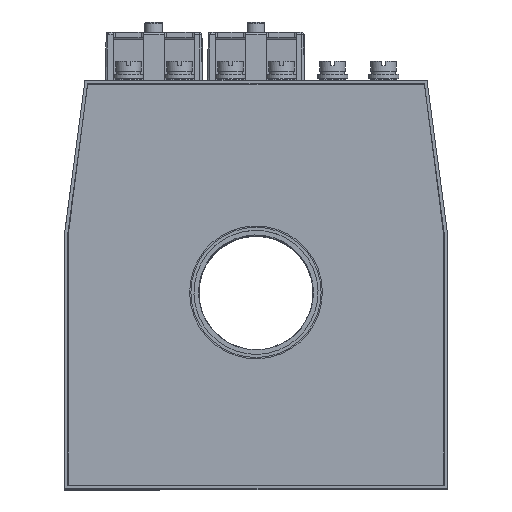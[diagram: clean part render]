
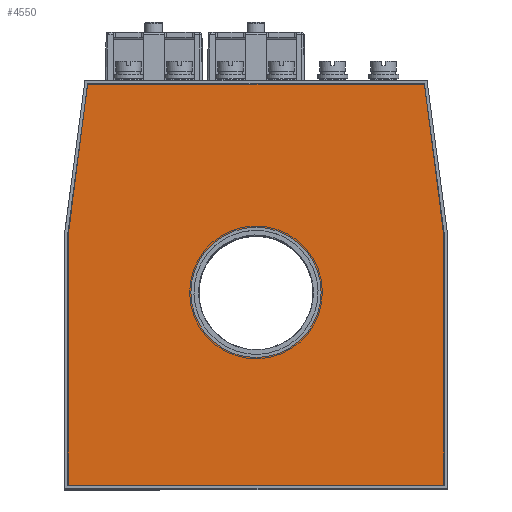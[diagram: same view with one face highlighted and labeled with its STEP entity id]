
A CAD part, top view. The second image highlights one B-rep face of the part: STEP entity #4550.
In plain terms, the highlighted planar face has unit normal (0, 0, 1).
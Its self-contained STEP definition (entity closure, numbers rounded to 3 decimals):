
#4550=ADVANCED_FACE('',(#8031,#8033),#8035,.T.);
#8031=FACE_BOUND('',#8032,.T.);
#8032=EDGE_LOOP('',(#9456,#9457,#9458,#9459,#9460,#9461));
#8033=FACE_BOUND('',#8034,.T.);
#8034=EDGE_LOOP('',(#9462));
#8035=PLANE('',#8036);
#8036=AXIS2_PLACEMENT_3D('',#8037,#8038,#8039);
#8037=CARTESIAN_POINT('',(0.,0.,5.));
#8038=DIRECTION('',(0.,0.,1.));
#8039=DIRECTION('',(1.,0.,0.));
#9456=ORIENTED_EDGE('',*,*,#10175,.T.);
#9457=ORIENTED_EDGE('',*,*,#10176,.T.);
#9458=ORIENTED_EDGE('',*,*,#10177,.T.);
#9459=ORIENTED_EDGE('',*,*,#10178,.T.);
#9460=ORIENTED_EDGE('',*,*,#10179,.T.);
#9461=ORIENTED_EDGE('',*,*,#10180,.T.);
#9462=ORIENTED_EDGE('',*,*,#10181,.T.);
#10175=EDGE_CURVE('',#11360,#11361,#11362,.T.);
#10176=EDGE_CURVE('',#11361,#11363,#11364,.T.);
#10177=EDGE_CURVE('',#11363,#11365,#11366,.T.);
#10178=EDGE_CURVE('',#11365,#11367,#11368,.T.);
#10179=EDGE_CURVE('',#11367,#11369,#11370,.T.);
#10180=EDGE_CURVE('',#11369,#11360,#11371,.T.);
#10181=EDGE_CURVE('',#11372,#11372,#11373,.F.);
#11360=VERTEX_POINT('',#14398);
#11361=VERTEX_POINT('',#14399);
#11362=LINE('',#14400,#14401);
#11363=VERTEX_POINT('',#14403);
#11364=LINE('',#14404,#14405);
#11365=VERTEX_POINT('',#14407);
#11366=LINE('',#14408,#14409);
#11367=VERTEX_POINT('',#14411);
#11368=LINE('',#14412,#14413);
#11369=VERTEX_POINT('',#14415);
#11370=LINE('',#14416,#14417);
#11371=LINE('',#14419,#14420);
#11372=VERTEX_POINT('',#14422);
#11373=CIRCLE('',#14423,25.5);
#14398=CARTESIAN_POINT('',(-73.5,19.815,5.));
#14399=CARTESIAN_POINT('',(-73.5,-78.5,5.));
#14400=CARTESIAN_POINT('',(-73.5,19.815,5.));
#14401=VECTOR('',#14402,1.);
#14402=DIRECTION('',(0.,-1.,0.));
#14403=CARTESIAN_POINT('',(73.5,-78.5,5.));
#14404=CARTESIAN_POINT('',(-73.5,-78.5,5.));
#14405=VECTOR('',#14406,1.);
#14406=DIRECTION('',(1.,0.,0.));
#14407=CARTESIAN_POINT('',(73.5,19.815,5.));
#14408=CARTESIAN_POINT('',(73.5,-78.5,5.));
#14409=VECTOR('',#14410,1.);
#14410=DIRECTION('',(0.,1.,0.));
#14411=CARTESIAN_POINT('',(66.,78.5,5.));
#14412=CARTESIAN_POINT('',(73.5,19.815,5.));
#14413=VECTOR('',#14414,1.);
#14414=DIRECTION('',(-0.127,0.992,0.));
#14415=CARTESIAN_POINT('',(-66.,78.5,5.));
#14416=CARTESIAN_POINT('',(66.,78.5,5.));
#14417=VECTOR('',#14418,1.);
#14418=DIRECTION('',(-1.,0.,0.));
#14419=CARTESIAN_POINT('',(-66.,78.5,5.));
#14420=VECTOR('',#14421,1.);
#14421=DIRECTION('',(-0.127,-0.992,0.));
#14422=CARTESIAN_POINT('',(25.5,-3.,5.));
#14423=AXIS2_PLACEMENT_3D('',#14424,#14425,#14426);
#14424=CARTESIAN_POINT('',(0.,-3.,5.));
#14425=DIRECTION('',(0.,0.,1.));
#14426=DIRECTION('',(1.,0.,0.));
